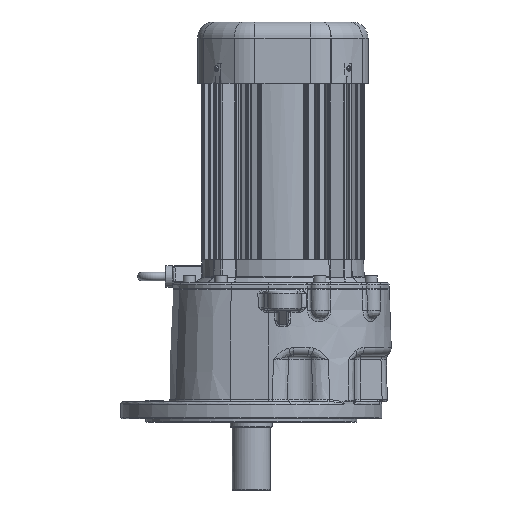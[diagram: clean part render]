
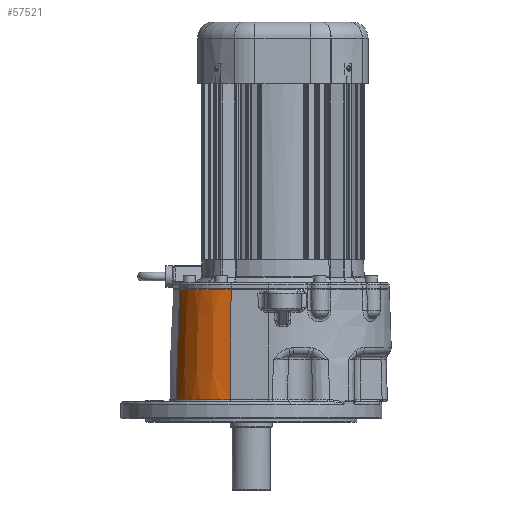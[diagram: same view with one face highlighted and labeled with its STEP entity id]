
A CAD part, left-side view. The second image highlights one B-rep face of the part: STEP entity #57521.
In plain terms, the highlighted conical face has half-angle 2 degrees and reference radius 80 mm.
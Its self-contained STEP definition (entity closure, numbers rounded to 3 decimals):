
#1097=CONICAL_SURFACE('',#62468,80.,0.035);
#5373=LINE('',#103268,#8337);
#5543=LINE('',#112582,#8507);
#8337=VECTOR('',#71436,10.);
#8507=VECTOR('',#73018,10.);
#12931=FACE_OUTER_BOUND('',#16434,.T.);
#16434=EDGE_LOOP('',(#43740,#43741,#43742,#43743));
#19805=CIRCLE('',#61730,80.105);
#20276=CIRCLE('',#62449,85.102);
#23945=VERTEX_POINT('',#102483);
#23946=VERTEX_POINT('',#102487);
#24013=VERTEX_POINT('',#103267);
#24574=VERTEX_POINT('',#112250);
#30344=EDGE_CURVE('',#23946,#23945,#19805,.T.);
#30435=EDGE_CURVE('',#23945,#24013,#5373,.T.);
#31424=EDGE_CURVE('',#24013,#24574,#20276,.T.);
#31454=EDGE_CURVE('',#23946,#24574,#5543,.T.);
#43740=ORIENTED_EDGE('',*,*,#30344,.F.);
#43741=ORIENTED_EDGE('',*,*,#31454,.T.);
#43742=ORIENTED_EDGE('',*,*,#31424,.F.);
#43743=ORIENTED_EDGE('',*,*,#30435,.F.);
#57521=ADVANCED_FACE('',(#12931),#1097,.T.);
#61730=AXIS2_PLACEMENT_3D('',#102489,#71363,#71364);
#62449=AXIS2_PLACEMENT_3D('',#112257,#72975,#72976);
#62468=AXIS2_PLACEMENT_3D('',#112583,#73019,#73020);
#71363=DIRECTION('center_axis',(0.,0.,
1.));
#71364=DIRECTION('ref_axis',(-0.255,0.967,0.));
#71436=DIRECTION('',(-0.035,0.005,-0.999));
#72975=DIRECTION('center_axis',(0.,0.,-1.));
#72976=DIRECTION('ref_axis',(-0.75,0.661,0.));
#73018=DIRECTION('',(-0.009,0.034,-0.999));
#73019=DIRECTION('center_axis',(0.,0.,-1.));
#73020=DIRECTION('ref_axis',(0.255,-0.967,0.));
#102483=CARTESIAN_POINT('',(-130.639,40.66,-4.749));
#102487=CARTESIAN_POINT('',(-71.64,107.569,-4.749));
#102489=CARTESIAN_POINT('Origin',(-51.233,30.107,-4.749));
#103267=CARTESIAN_POINT('',(-135.593,41.318,-147.855));
#103268=CARTESIAN_POINT('',(-130.536,40.646,-1.75));
#112250=CARTESIAN_POINT('',(-72.913,112.401,-147.855));
#112257=CARTESIAN_POINT('Origin',(-51.233,30.107,-147.855));
#112582=CARTESIAN_POINT('',(-71.613,107.467,-1.75));
#112583=CARTESIAN_POINT('Origin',(-51.233,30.107,-1.75));
